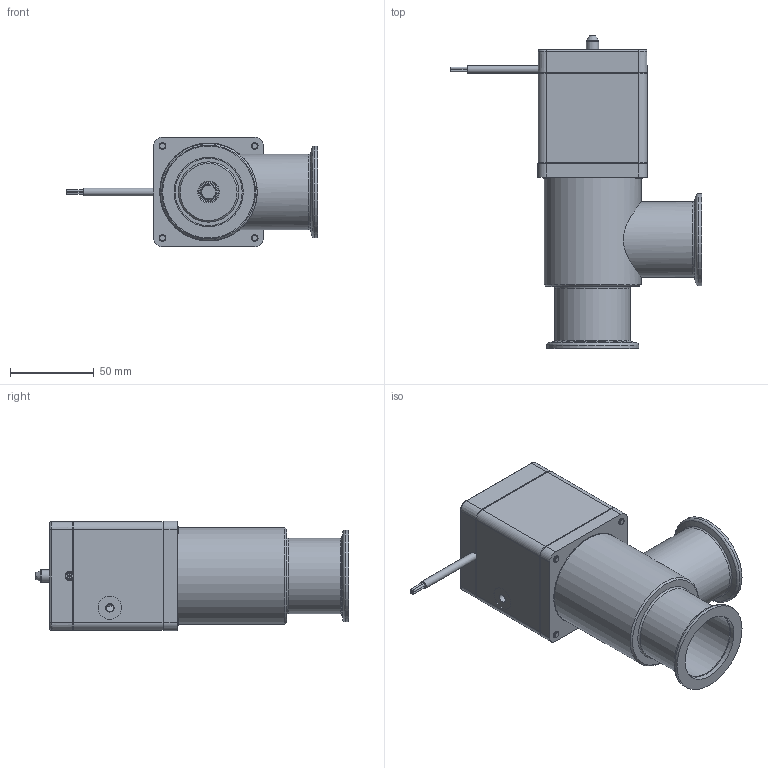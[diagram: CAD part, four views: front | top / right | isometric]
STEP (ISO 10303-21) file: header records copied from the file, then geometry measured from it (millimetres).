
FILE_DESCRIPTION(/* description */ (''),/* implementation_level */ '2;1');
FILE_NAME(/* name */ '1000169070_203.stp',/* time_stamp */ '2013-08-30T06:52:22+02:00',/* author */ (''),/* organization */ (''),/* preprocessor_version */ 'ST-DEVELOPER v11',/* originating_system */ 'SIEMENS PLM Software NX 7.5',/* authorisation */ '');
FILE_SCHEMA (('AP203_CONFIGURATION_CONTROLLED_3D_DESIGN_OF_MECHANICAL_PARTS_AND_ASSEMBLIES_MIM_LF'));
Length unit declared in the file: millimetre
Products named in the file (13): 239888_6.1; 233232; 236208.2; 236204_1.1; 240513.1; 240512.10; 240511.9; 243875.2; 239737.6; 240792.1; 402933; 240510.14; 701727
Assembly tree (17 placements, depth 3):
  701727
    240792.1  x4
    239737.6
    240510.14
      240511.9
      240512.10
      240513.1
    243875.2
    402933
      236204_1.1  x2
      236208.2  x2
      233232
      239888_6.1
Bounding box: 149.82 x 186.79 x 65.4 mm (x, y, z)
Volume: 227790.6 mm3; surface area: 129833.9 mm2
Topology: 23 solids, 23 shells, 656 faces, 1599 edges, 1044 vertices
Faces by surface type: plane 395, cylinder 153, cone 71, bspline 19, torus 16, sphere 2
Full cylindrical faces by diameter (mm): 1.4 x8, 2 x6, 2.2 x4, 2.5 x3, 2.95 x1, 3 x7, 3.26 x4, 3.3 x4, 4 x12, 4.5 x5, 4.6 x2, 4.7 x3, 5 x1, 5.6 x2, 7 x4, 7.4 x1, 8 x7, 9.1 x1, 10 x1, 11.975 x3, 12.012 x1, 12.013 x1, 13.85 x1, 14 x1, 16.555 x1, 36 x1, 40 x3, 41.3 x2, 45 x2, 54 x1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
Entity records: 18216 total; most frequent: CARTESIAN_POINT 3688, DIRECTION 2591, ORIENTED_EDGE 2372, EDGE_CURVE 1186, AXIS2_PLACEMENT_3D 915, VERTEX_POINT 863, EDGE_LOOP 793, LINE 761
